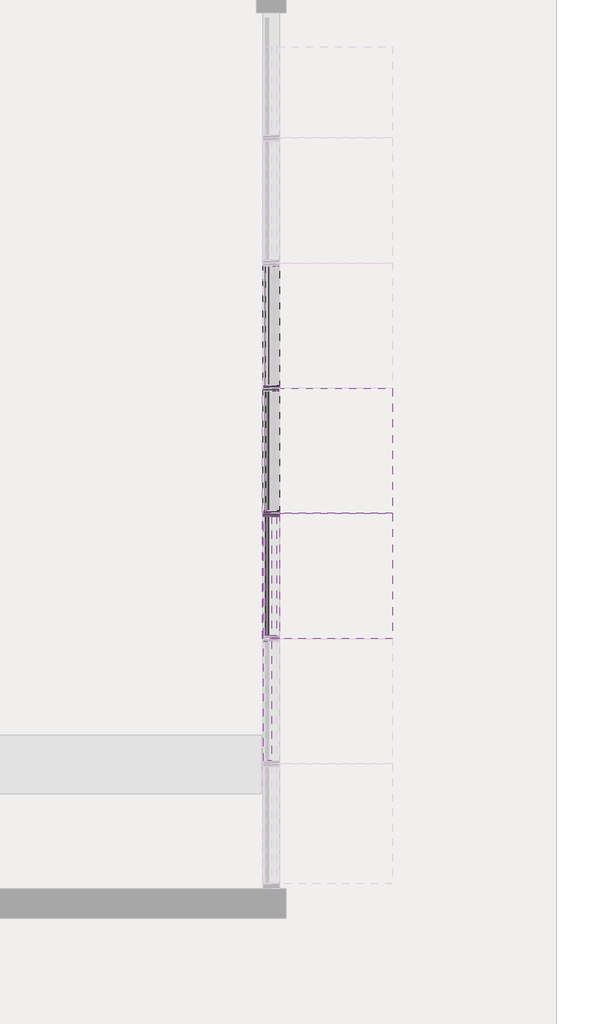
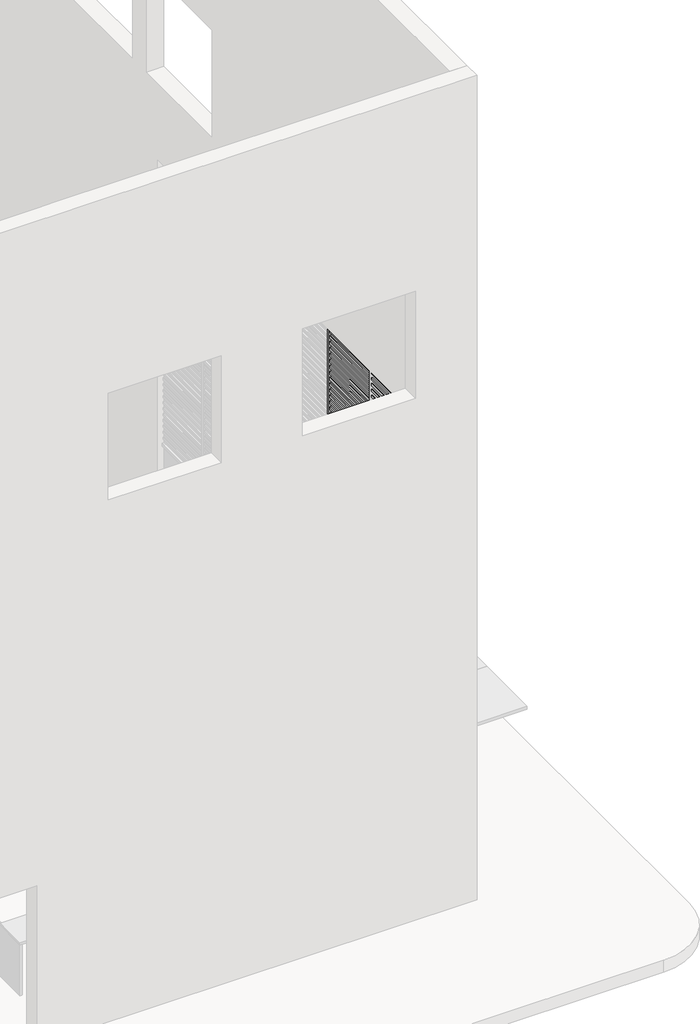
# One storey, part 4 of 8: 83 members, 50 plates.
"""IFC4 building model written with IfcOpenShell, lengths in millimetres."""

from ifc_helpers import new_model, si_unit, origin, place, context, project, spatial, transform, mapped, element, save
from components import rectangular_mullion_50_x_1200mm_b79d1996, rectangular_mullion_50_x_150mm_232fa5d8, rectangular_mullion_50_x_150mm_2c7bb3b8, rectangular_mullion_50_x_150mm_81a85930, rectangular_mullion_50_x_150mm_0b18dce2, rectangular_mullion_timber_70_x_35_2d2b050c, empty_system_panel_empty_0ae384b7, empty_system_panel_empty_f50b0574, empty_system_panel_empty_9ab0a9e8, system_panel_concept_glazed_5326a568

model = new_model("IFC4")

# Units and contexts
model_context = context("Model", 3, world=origin())
ifc_project = project(units=[si_unit("LENGTHUNIT", "METRE", prefix="MILLI")], contexts=[model_context])

# Site, building, storey
site = spatial("IfcSite", under=ifc_project)
building = spatial("IfcBuilding", under=site)
storey = spatial("IfcBuildingStorey", under=building, Name="0階", Elevation=25100.0)

# Members
placement = place(None, origin())
rectangular_mullion_50_x_1200mm_shape = rectangular_mullion_50_x_1200mm_b79d1996(model_context)
element("IfcMember", 1, ObjectType="Rectangular Mullion : 50 x 1200mm", at=placement, inside=storey, context=model_context, shape_type="MappedRepresentation", body=[
    mapped(rectangular_mullion_50_x_1200mm_shape, transform((45100.0, 3780.5183891, 27800.0), x_axis=(0.0, 0.0, 1.0), y_axis=(1.0, 0.0, 0.0), z_axis=(0.0, 1.0, 0.0))),
])
element("IfcMember", 2, ObjectType="Rectangular Mullion : 50 x 1200mm", at=placement, inside=storey, context=model_context, shape_type="MappedRepresentation", body=[
    mapped(rectangular_mullion_50_x_1200mm_shape, transform((45100.0, 4937.6612462, 27800.0), x_axis=(0.0, 0.0, 1.0), y_axis=(1.0, 0.0, 0.0), z_axis=(0.0, 1.0, 0.0))),
])
rectangular_mullion_50_x_150mm_shape = rectangular_mullion_50_x_150mm_232fa5d8(model_context)
element("IfcMember", 3, ObjectType="Rectangular Mullion : 50 x 150mm", at=placement, inside=storey, context=model_context, shape_type="MappedRepresentation", body=[
    mapped(rectangular_mullion_50_x_150mm_shape, transform((45100.0, 3780.5183891, 32600.0), x_axis=(0.0, 0.0, 1.0), y_axis=(1.0, 0.0, 0.0), z_axis=(0.0, 1.0, 0.0))),
])
element("IfcMember", 4, ObjectType="Rectangular Mullion : 50 x 150mm", at=placement, inside=storey, context=model_context, shape_type="MappedRepresentation", body=[
    mapped(rectangular_mullion_50_x_150mm_shape, transform((45100.0, 4937.6612462, 32600.0), x_axis=(0.0, 0.0, 1.0), y_axis=(1.0, 0.0, 0.0), z_axis=(0.0, 1.0, 0.0))),
])
element("IfcMember", 5, ObjectType="Rectangular Mullion : 50 x 150mm", at=placement, inside=storey, context=model_context, shape_type="MappedRepresentation", body=[
    mapped(rectangular_mullion_50_x_150mm_shape, transform((45100.0, 3780.5183891, 25100.0), x_axis=(0.0, 0.0, -1.0), y_axis=(1.0, 0.0, 0.0), z_axis=(0.0, -1.0, 0.0))),
])
element("IfcMember", 6, ObjectType="Rectangular Mullion : 50 x 150mm", at=placement, inside=storey, context=model_context, shape_type="MappedRepresentation", body=[
    mapped(rectangular_mullion_50_x_150mm_shape, transform((45100.0, 4937.6612462, 25100.0), x_axis=(0.0, 0.0, -1.0), y_axis=(1.0, 0.0, 0.0), z_axis=(0.0, -1.0, 0.0))),
])
rectangular_mullion_50_x_150mm_2_shape = rectangular_mullion_50_x_150mm_2c7bb3b8(model_context)
element("IfcMember", 7, ObjectType="Rectangular Mullion : 50 x 150mm", at=placement, inside=storey, context=model_context, shape_type="MappedRepresentation", body=[
    mapped(rectangular_mullion_50_x_150mm_2_shape, transform((45100.0, 3780.5183891, 25150.0), x_axis=(0.0, 1.0, 0.0), y_axis=(1.0, 0.0, 0.0), z_axis=(0.0, 0.0, -1.0))),
])
element("IfcMember", 8, ObjectType="Rectangular Mullion : 50 x 150mm", at=placement, inside=storey, context=model_context, shape_type="MappedRepresentation", body=[
    mapped(rectangular_mullion_50_x_150mm_2_shape, transform((45100.0, 4937.6612462, 25150.0), x_axis=(0.0, 1.0, 0.0), y_axis=(1.0, 0.0, 0.0), z_axis=(0.0, 0.0, -1.0))),
])
element("IfcMember", 9, ObjectType="Rectangular Mullion : 50 x 150mm", at=placement, inside=storey, context=model_context, shape_type="MappedRepresentation", body=[
    mapped(rectangular_mullion_50_x_150mm_2_shape, transform((45100.0, 3780.5183891, 29925.0), x_axis=(0.0, 1.0, 0.0), y_axis=(1.0, 0.0, 0.0), z_axis=(0.0, 0.0, -1.0))),
])
element("IfcMember", 10, ObjectType="Rectangular Mullion : 50 x 150mm", at=placement, inside=storey, context=model_context, shape_type="MappedRepresentation", body=[
    mapped(rectangular_mullion_50_x_150mm_2_shape, transform((45100.0, 4937.6612462, 29925.0), x_axis=(0.0, 1.0, 0.0), y_axis=(1.0, 0.0, 0.0), z_axis=(0.0, 0.0, -1.0))),
])
rectangular_mullion_50_x_150mm_3_shape = rectangular_mullion_50_x_150mm_81a85930(model_context)
element("IfcMember", 11, ObjectType="Rectangular Mullion : 50 x 150mm", at=placement, inside=storey, context=model_context, shape_type="MappedRepresentation", body=[
    mapped(rectangular_mullion_50_x_150mm_3_shape, transform((45100.0, 3780.5183891, 29900.0), x_axis=(0.0, 0.0, 1.0), y_axis=(1.0, 0.0, 0.0), z_axis=(0.0, 1.0, 0.0))),
])
rectangular_mullion_50_x_150mm_4_shape = rectangular_mullion_50_x_150mm_0b18dce2(model_context)
element("IfcMember", 12, ObjectType="Rectangular Mullion : 50 x 150mm", at=placement, inside=storey, context=model_context, shape_type="MappedRepresentation", body=[
    mapped(rectangular_mullion_50_x_150mm_4_shape, transform((45100.0, 3780.5183891, 27825.0), x_axis=(0.0, 1.0, 0.0), y_axis=(1.0, 0.0, 0.0), z_axis=(0.0, 0.0, -1.0))),
])
element("IfcMember", 13, ObjectType="Rectangular Mullion : 50 x 150mm", at=placement, inside=storey, context=model_context, shape_type="MappedRepresentation", body=[
    mapped(rectangular_mullion_50_x_150mm_4_shape, transform((45100.0, 4937.6612462, 27825.0), x_axis=(0.0, 1.0, 0.0), y_axis=(1.0, 0.0, 0.0), z_axis=(0.0, 0.0, -1.0))),
])
rectangular_mullion_timber_70_x_35_shape = rectangular_mullion_timber_70_x_35_2d2b050c(model_context)
element("IfcMember", 14, ObjectType="Rectangular Mullion : Timber - 70 x 35", at=placement, inside=storey, context=model_context, shape_type="MappedRepresentation", body=[
    mapped(rectangular_mullion_timber_70_x_35_shape, transform((45100.0, 3755.5183891, 27907.5), x_axis=(0.0, 0.0, 1.0), y_axis=(1.0, 0.0, 0.0), z_axis=(0.0, 1.0, 0.0))),
])
element("IfcMember", 15, ObjectType="Rectangular Mullion : Timber - 70 x 35", at=placement, inside=storey, context=model_context, shape_type="MappedRepresentation", body=[
    mapped(rectangular_mullion_timber_70_x_35_shape, transform((45100.0, 3755.5183891, 28007.5), x_axis=(0.0, 0.0, 1.0), y_axis=(1.0, 0.0, 0.0), z_axis=(0.0, 1.0, 0.0))),
])
element("IfcMember", 16, ObjectType="Rectangular Mullion : Timber - 70 x 35", at=placement, inside=storey, context=model_context, shape_type="MappedRepresentation", body=[
    mapped(rectangular_mullion_timber_70_x_35_shape, transform((45100.0, 3755.5183891, 28107.5), x_axis=(0.0, 0.0, 1.0), y_axis=(1.0, 0.0, 0.0), z_axis=(0.0, 1.0, 0.0))),
])
element("IfcMember", 17, ObjectType="Rectangular Mullion : Timber - 70 x 35", at=placement, inside=storey, context=model_context, shape_type="MappedRepresentation", body=[
    mapped(rectangular_mullion_timber_70_x_35_shape, transform((45100.0, 3755.5183891, 28207.5), x_axis=(0.0, 0.0, 1.0), y_axis=(1.0, 0.0, 0.0), z_axis=(0.0, 1.0, 0.0))),
])
element("IfcMember", 18, ObjectType="Rectangular Mullion : Timber - 70 x 35", at=placement, inside=storey, context=model_context, shape_type="MappedRepresentation", body=[
    mapped(rectangular_mullion_timber_70_x_35_shape, transform((45100.0, 3755.5183891, 28307.5), x_axis=(0.0, 0.0, 1.0), y_axis=(1.0, 0.0, 0.0), z_axis=(0.0, 1.0, 0.0))),
])
element("IfcMember", 19, ObjectType="Rectangular Mullion : Timber - 70 x 35", at=placement, inside=storey, context=model_context, shape_type="MappedRepresentation", body=[
    mapped(rectangular_mullion_timber_70_x_35_shape, transform((45100.0, 3755.5183891, 28407.5), x_axis=(0.0, 0.0, 1.0), y_axis=(1.0, 0.0, 0.0), z_axis=(0.0, 1.0, 0.0))),
])
element("IfcMember", 20, ObjectType="Rectangular Mullion : Timber - 70 x 35", at=placement, inside=storey, context=model_context, shape_type="MappedRepresentation", body=[
    mapped(rectangular_mullion_timber_70_x_35_shape, transform((45100.0, 3755.5183891, 28507.5), x_axis=(0.0, 0.0, 1.0), y_axis=(1.0, 0.0, 0.0), z_axis=(0.0, 1.0, 0.0))),
])
element("IfcMember", 21, ObjectType="Rectangular Mullion : Timber - 70 x 35", at=placement, inside=storey, context=model_context, shape_type="MappedRepresentation", body=[
    mapped(rectangular_mullion_timber_70_x_35_shape, transform((45100.0, 3755.5183891, 28607.5), x_axis=(0.0, 0.0, 1.0), y_axis=(1.0, 0.0, 0.0), z_axis=(0.0, 1.0, 0.0))),
])
element("IfcMember", 22, ObjectType="Rectangular Mullion : Timber - 70 x 35", at=placement, inside=storey, context=model_context, shape_type="MappedRepresentation", body=[
    mapped(rectangular_mullion_timber_70_x_35_shape, transform((45100.0, 3755.5183891, 28707.5), x_axis=(0.0, 0.0, 1.0), y_axis=(1.0, 0.0, 0.0), z_axis=(0.0, 1.0, 0.0))),
])
element("IfcMember", 23, ObjectType="Rectangular Mullion : Timber - 70 x 35", at=placement, inside=storey, context=model_context, shape_type="MappedRepresentation", body=[
    mapped(rectangular_mullion_timber_70_x_35_shape, transform((45100.0, 3755.5183891, 28807.5), x_axis=(0.0, 0.0, 1.0), y_axis=(1.0, 0.0, 0.0), z_axis=(0.0, 1.0, 0.0))),
])
element("IfcMember", 24, ObjectType="Rectangular Mullion : Timber - 70 x 35", at=placement, inside=storey, context=model_context, shape_type="MappedRepresentation", body=[
    mapped(rectangular_mullion_timber_70_x_35_shape, transform((45100.0, 3755.5183891, 28907.5), x_axis=(0.0, 0.0, 1.0), y_axis=(1.0, 0.0, 0.0), z_axis=(0.0, 1.0, 0.0))),
])
element("IfcMember", 25, ObjectType="Rectangular Mullion : Timber - 70 x 35", at=placement, inside=storey, context=model_context, shape_type="MappedRepresentation", body=[
    mapped(rectangular_mullion_timber_70_x_35_shape, transform((45100.0, 3755.5183891, 29007.5), x_axis=(0.0, 0.0, 1.0), y_axis=(1.0, 0.0, 0.0), z_axis=(0.0, 1.0, 0.0))),
])
element("IfcMember", 26, ObjectType="Rectangular Mullion : Timber - 70 x 35", at=placement, inside=storey, context=model_context, shape_type="MappedRepresentation", body=[
    mapped(rectangular_mullion_timber_70_x_35_shape, transform((45100.0, 3755.5183891, 29107.5), x_axis=(0.0, 0.0, 1.0), y_axis=(1.0, 0.0, 0.0), z_axis=(0.0, 1.0, 0.0))),
])
element("IfcMember", 27, ObjectType="Rectangular Mullion : Timber - 70 x 35", at=placement, inside=storey, context=model_context, shape_type="MappedRepresentation", body=[
    mapped(rectangular_mullion_timber_70_x_35_shape, transform((45100.0, 3755.5183891, 29207.5), x_axis=(0.0, 0.0, 1.0), y_axis=(1.0, 0.0, 0.0), z_axis=(0.0, 1.0, 0.0))),
])
element("IfcMember", 28, ObjectType="Rectangular Mullion : Timber - 70 x 35", at=placement, inside=storey, context=model_context, shape_type="MappedRepresentation", body=[
    mapped(rectangular_mullion_timber_70_x_35_shape, transform((45100.0, 3755.5183891, 29307.5), x_axis=(0.0, 0.0, 1.0), y_axis=(1.0, 0.0, 0.0), z_axis=(0.0, 1.0, 0.0))),
])
element("IfcMember", 29, ObjectType="Rectangular Mullion : Timber - 70 x 35", at=placement, inside=storey, context=model_context, shape_type="MappedRepresentation", body=[
    mapped(rectangular_mullion_timber_70_x_35_shape, transform((45100.0, 3755.5183891, 29407.5), x_axis=(0.0, 0.0, 1.0), y_axis=(1.0, 0.0, 0.0), z_axis=(0.0, 1.0, 0.0))),
])
element("IfcMember", 30, ObjectType="Rectangular Mullion : Timber - 70 x 35", at=placement, inside=storey, context=model_context, shape_type="MappedRepresentation", body=[
    mapped(rectangular_mullion_timber_70_x_35_shape, transform((45100.0, 3755.5183891, 29507.5), x_axis=(0.0, 0.0, 1.0), y_axis=(1.0, 0.0, 0.0), z_axis=(0.0, 1.0, 0.0))),
])
element("IfcMember", 31, ObjectType="Rectangular Mullion : Timber - 70 x 35", at=placement, inside=storey, context=model_context, shape_type="MappedRepresentation", body=[
    mapped(rectangular_mullion_timber_70_x_35_shape, transform((45100.0, 3755.5183891, 29607.5), x_axis=(0.0, 0.0, 1.0), y_axis=(1.0, 0.0, 0.0), z_axis=(0.0, 1.0, 0.0))),
])
element("IfcMember", 32, ObjectType="Rectangular Mullion : Timber - 70 x 35", at=placement, inside=storey, context=model_context, shape_type="MappedRepresentation", body=[
    mapped(rectangular_mullion_timber_70_x_35_shape, transform((45100.0, 3755.5183891, 29707.5), x_axis=(0.0, 0.0, 1.0), y_axis=(1.0, 0.0, 0.0), z_axis=(0.0, 1.0, 0.0))),
])
element("IfcMember", 33, ObjectType="Rectangular Mullion : Timber - 70 x 35", at=placement, inside=storey, context=model_context, shape_type="MappedRepresentation", body=[
    mapped(rectangular_mullion_timber_70_x_35_shape, transform((45100.0, 3755.5183891, 29807.5), x_axis=(0.0, 0.0, 1.0), y_axis=(1.0, 0.0, 0.0), z_axis=(0.0, 1.0, 0.0))),
])
element("IfcMember", 34, ObjectType="Rectangular Mullion : Timber - 70 x 35", at=placement, inside=storey, context=model_context, shape_type="MappedRepresentation", body=[
    mapped(rectangular_mullion_timber_70_x_35_shape, transform((45100.0, 2598.3755319, 30207.5), x_axis=(0.0, 0.0, 1.0), y_axis=(1.0, 0.0, 0.0), z_axis=(0.0, 1.0, 0.0))),
])
element("IfcMember", 35, ObjectType="Rectangular Mullion : Timber - 70 x 35", at=placement, inside=storey, context=model_context, shape_type="MappedRepresentation", body=[
    mapped(rectangular_mullion_timber_70_x_35_shape, transform((45100.0, 2598.3755319, 30307.5), x_axis=(0.0, 0.0, 1.0), y_axis=(1.0, 0.0, 0.0), z_axis=(0.0, 1.0, 0.0))),
])
element("IfcMember", 36, ObjectType="Rectangular Mullion : Timber - 70 x 35", at=placement, inside=storey, context=model_context, shape_type="MappedRepresentation", body=[
    mapped(rectangular_mullion_timber_70_x_35_shape, transform((45100.0, 2598.3755319, 30407.5), x_axis=(0.0, 0.0, 1.0), y_axis=(1.0, 0.0, 0.0), z_axis=(0.0, 1.0, 0.0))),
])
element("IfcMember", 37, ObjectType="Rectangular Mullion : Timber - 70 x 35", at=placement, inside=storey, context=model_context, shape_type="MappedRepresentation", body=[
    mapped(rectangular_mullion_timber_70_x_35_shape, transform((45100.0, 2598.3755319, 30507.5), x_axis=(0.0, 0.0, 1.0), y_axis=(1.0, 0.0, 0.0), z_axis=(0.0, 1.0, 0.0))),
])
element("IfcMember", 38, ObjectType="Rectangular Mullion : Timber - 70 x 35", at=placement, inside=storey, context=model_context, shape_type="MappedRepresentation", body=[
    mapped(rectangular_mullion_timber_70_x_35_shape, transform((45100.0, 2598.3755319, 30607.5), x_axis=(0.0, 0.0, 1.0), y_axis=(1.0, 0.0, 0.0), z_axis=(0.0, 1.0, 0.0))),
])
element("IfcMember", 39, ObjectType="Rectangular Mullion : Timber - 70 x 35", at=placement, inside=storey, context=model_context, shape_type="MappedRepresentation", body=[
    mapped(rectangular_mullion_timber_70_x_35_shape, transform((45100.0, 2598.3755319, 30707.5), x_axis=(0.0, 0.0, 1.0), y_axis=(1.0, 0.0, 0.0), z_axis=(0.0, 1.0, 0.0))),
])
element("IfcMember", 40, ObjectType="Rectangular Mullion : Timber - 70 x 35", at=placement, inside=storey, context=model_context, shape_type="MappedRepresentation", body=[
    mapped(rectangular_mullion_timber_70_x_35_shape, transform((45100.0, 2598.3755319, 30807.5), x_axis=(0.0, 0.0, 1.0), y_axis=(1.0, 0.0, 0.0), z_axis=(0.0, 1.0, 0.0))),
])
element("IfcMember", 41, ObjectType="Rectangular Mullion : Timber - 70 x 35", at=placement, inside=storey, context=model_context, shape_type="MappedRepresentation", body=[
    mapped(rectangular_mullion_timber_70_x_35_shape, transform((45100.0, 2598.3755319, 30907.5), x_axis=(0.0, 0.0, 1.0), y_axis=(1.0, 0.0, 0.0), z_axis=(0.0, 1.0, 0.0))),
])
element("IfcMember", 42, ObjectType="Rectangular Mullion : Timber - 70 x 35", at=placement, inside=storey, context=model_context, shape_type="MappedRepresentation", body=[
    mapped(rectangular_mullion_timber_70_x_35_shape, transform((45100.0, 2598.3755319, 31007.5), x_axis=(0.0, 0.0, 1.0), y_axis=(1.0, 0.0, 0.0), z_axis=(0.0, 1.0, 0.0))),
])
element("IfcMember", 43, ObjectType="Rectangular Mullion : Timber - 70 x 35", at=placement, inside=storey, context=model_context, shape_type="MappedRepresentation", body=[
    mapped(rectangular_mullion_timber_70_x_35_shape, transform((45100.0, 2598.3755319, 31107.5), x_axis=(0.0, 0.0, 1.0), y_axis=(1.0, 0.0, 0.0), z_axis=(0.0, 1.0, 0.0))),
])
element("IfcMember", 44, ObjectType="Rectangular Mullion : Timber - 70 x 35", at=placement, inside=storey, context=model_context, shape_type="MappedRepresentation", body=[
    mapped(rectangular_mullion_timber_70_x_35_shape, transform((45100.0, 2598.3755319, 31207.5), x_axis=(0.0, 0.0, 1.0), y_axis=(1.0, 0.0, 0.0), z_axis=(0.0, 1.0, 0.0))),
])
element("IfcMember", 45, ObjectType="Rectangular Mullion : Timber - 70 x 35", at=placement, inside=storey, context=model_context, shape_type="MappedRepresentation", body=[
    mapped(rectangular_mullion_timber_70_x_35_shape, transform((45100.0, 2598.3755319, 31307.5), x_axis=(0.0, 0.0, 1.0), y_axis=(1.0, 0.0, 0.0), z_axis=(0.0, 1.0, 0.0))),
])
element("IfcMember", 46, ObjectType="Rectangular Mullion : Timber - 70 x 35", at=placement, inside=storey, context=model_context, shape_type="MappedRepresentation", body=[
    mapped(rectangular_mullion_timber_70_x_35_shape, transform((45100.0, 2598.3755319, 31407.5), x_axis=(0.0, 0.0, 1.0), y_axis=(1.0, 0.0, 0.0), z_axis=(0.0, 1.0, 0.0))),
])
element("IfcMember", 47, ObjectType="Rectangular Mullion : Timber - 70 x 35", at=placement, inside=storey, context=model_context, shape_type="MappedRepresentation", body=[
    mapped(rectangular_mullion_timber_70_x_35_shape, transform((45100.0, 2598.3755319, 31507.5), x_axis=(0.0, 0.0, 1.0), y_axis=(1.0, 0.0, 0.0), z_axis=(0.0, 1.0, 0.0))),
])
element("IfcMember", 48, ObjectType="Rectangular Mullion : Timber - 70 x 35", at=placement, inside=storey, context=model_context, shape_type="MappedRepresentation", body=[
    mapped(rectangular_mullion_timber_70_x_35_shape, transform((45100.0, 2598.3755319, 31607.5), x_axis=(0.0, 0.0, 1.0), y_axis=(1.0, 0.0, 0.0), z_axis=(0.0, 1.0, 0.0))),
])
element("IfcMember", 49, ObjectType="Rectangular Mullion : Timber - 70 x 35", at=placement, inside=storey, context=model_context, shape_type="MappedRepresentation", body=[
    mapped(rectangular_mullion_timber_70_x_35_shape, transform((45100.0, 2598.3755319, 31707.5), x_axis=(0.0, 0.0, 1.0), y_axis=(1.0, 0.0, 0.0), z_axis=(0.0, 1.0, 0.0))),
])
element("IfcMember", 50, ObjectType="Rectangular Mullion : Timber - 70 x 35", at=placement, inside=storey, context=model_context, shape_type="MappedRepresentation", body=[
    mapped(rectangular_mullion_timber_70_x_35_shape, transform((45100.0, 2598.3755319, 31807.5), x_axis=(0.0, 0.0, 1.0), y_axis=(1.0, 0.0, 0.0), z_axis=(0.0, 1.0, 0.0))),
])
element("IfcMember", 51, ObjectType="Rectangular Mullion : Timber - 70 x 35", at=placement, inside=storey, context=model_context, shape_type="MappedRepresentation", body=[
    mapped(rectangular_mullion_timber_70_x_35_shape, transform((45100.0, 2598.3755319, 31907.5), x_axis=(0.0, 0.0, 1.0), y_axis=(1.0, 0.0, 0.0), z_axis=(0.0, 1.0, 0.0))),
])
element("IfcMember", 52, ObjectType="Rectangular Mullion : Timber - 70 x 35", at=placement, inside=storey, context=model_context, shape_type="MappedRepresentation", body=[
    mapped(rectangular_mullion_timber_70_x_35_shape, transform((45100.0, 2598.3755319, 32007.5), x_axis=(0.0, 0.0, 1.0), y_axis=(1.0, 0.0, 0.0), z_axis=(0.0, 1.0, 0.0))),
])
element("IfcMember", 53, ObjectType="Rectangular Mullion : Timber - 70 x 35", at=placement, inside=storey, context=model_context, shape_type="MappedRepresentation", body=[
    mapped(rectangular_mullion_timber_70_x_35_shape, transform((45100.0, 2598.3755319, 32107.5), x_axis=(0.0, 0.0, 1.0), y_axis=(1.0, 0.0, 0.0), z_axis=(0.0, 1.0, 0.0))),
])
element("IfcMember", 54, ObjectType="Rectangular Mullion : Timber - 70 x 35", at=placement, inside=storey, context=model_context, shape_type="MappedRepresentation", body=[
    mapped(rectangular_mullion_timber_70_x_35_shape, transform((45100.0, 2598.3755319, 32207.5), x_axis=(0.0, 0.0, 1.0), y_axis=(1.0, 0.0, 0.0), z_axis=(0.0, 1.0, 0.0))),
])
element("IfcMember", 55, ObjectType="Rectangular Mullion : Timber - 70 x 35", at=placement, inside=storey, context=model_context, shape_type="MappedRepresentation", body=[
    mapped(rectangular_mullion_timber_70_x_35_shape, transform((45100.0, 2598.3755319, 32307.5), x_axis=(0.0, 0.0, 1.0), y_axis=(1.0, 0.0, 0.0), z_axis=(0.0, 1.0, 0.0))),
])
element("IfcMember", 56, ObjectType="Rectangular Mullion : Timber - 70 x 35", at=placement, inside=storey, context=model_context, shape_type="MappedRepresentation", body=[
    mapped(rectangular_mullion_timber_70_x_35_shape, transform((45100.0, 2598.3755319, 32407.5), x_axis=(0.0, 0.0, 1.0), y_axis=(1.0, 0.0, 0.0), z_axis=(0.0, 1.0, 0.0))),
])
element("IfcMember", 57, ObjectType="Rectangular Mullion : Timber - 70 x 35", at=placement, inside=storey, context=model_context, shape_type="MappedRepresentation", body=[
    mapped(rectangular_mullion_timber_70_x_35_shape, transform((45100.0, 2598.3755319, 32507.5), x_axis=(0.0, 0.0, 1.0), y_axis=(1.0, 0.0, 0.0), z_axis=(0.0, 1.0, 0.0))),
])
element("IfcMember", 58, ObjectType="Rectangular Mullion : Timber - 70 x 35", at=placement, inside=storey, context=model_context, shape_type="MappedRepresentation", body=[
    mapped(rectangular_mullion_timber_70_x_35_shape, transform((45100.0, 3755.5183891, 30007.5), x_axis=(0.0, 0.0, 1.0), y_axis=(1.0, 0.0, 0.0), z_axis=(0.0, 1.0, 0.0))),
])
element("IfcMember", 59, ObjectType="Rectangular Mullion : Timber - 70 x 35", at=placement, inside=storey, context=model_context, shape_type="MappedRepresentation", body=[
    mapped(rectangular_mullion_timber_70_x_35_shape, transform((45100.0, 3755.5183891, 30107.5), x_axis=(0.0, 0.0, 1.0), y_axis=(1.0, 0.0, 0.0), z_axis=(0.0, 1.0, 0.0))),
])
element("IfcMember", 60, ObjectType="Rectangular Mullion : Timber - 70 x 35", at=placement, inside=storey, context=model_context, shape_type="MappedRepresentation", body=[
    mapped(rectangular_mullion_timber_70_x_35_shape, transform((45100.0, 3755.5183891, 30207.5), x_axis=(0.0, 0.0, 1.0), y_axis=(1.0, 0.0, 0.0), z_axis=(0.0, 1.0, 0.0))),
])
element("IfcMember", 61, ObjectType="Rectangular Mullion : Timber - 70 x 35", at=placement, inside=storey, context=model_context, shape_type="MappedRepresentation", body=[
    mapped(rectangular_mullion_timber_70_x_35_shape, transform((45100.0, 3755.5183891, 30307.5), x_axis=(0.0, 0.0, 1.0), y_axis=(1.0, 0.0, 0.0), z_axis=(0.0, 1.0, 0.0))),
])
element("IfcMember", 62, ObjectType="Rectangular Mullion : Timber - 70 x 35", at=placement, inside=storey, context=model_context, shape_type="MappedRepresentation", body=[
    mapped(rectangular_mullion_timber_70_x_35_shape, transform((45100.0, 3755.5183891, 30407.5), x_axis=(0.0, 0.0, 1.0), y_axis=(1.0, 0.0, 0.0), z_axis=(0.0, 1.0, 0.0))),
])
element("IfcMember", 63, ObjectType="Rectangular Mullion : Timber - 70 x 35", at=placement, inside=storey, context=model_context, shape_type="MappedRepresentation", body=[
    mapped(rectangular_mullion_timber_70_x_35_shape, transform((45100.0, 3755.5183891, 30507.5), x_axis=(0.0, 0.0, 1.0), y_axis=(1.0, 0.0, 0.0), z_axis=(0.0, 1.0, 0.0))),
])
element("IfcMember", 64, ObjectType="Rectangular Mullion : Timber - 70 x 35", at=placement, inside=storey, context=model_context, shape_type="MappedRepresentation", body=[
    mapped(rectangular_mullion_timber_70_x_35_shape, transform((45100.0, 3755.5183891, 30607.5), x_axis=(0.0, 0.0, 1.0), y_axis=(1.0, 0.0, 0.0), z_axis=(0.0, 1.0, 0.0))),
])
element("IfcMember", 65, ObjectType="Rectangular Mullion : Timber - 70 x 35", at=placement, inside=storey, context=model_context, shape_type="MappedRepresentation", body=[
    mapped(rectangular_mullion_timber_70_x_35_shape, transform((45100.0, 3755.5183891, 30707.5), x_axis=(0.0, 0.0, 1.0), y_axis=(1.0, 0.0, 0.0), z_axis=(0.0, 1.0, 0.0))),
])
element("IfcMember", 66, ObjectType="Rectangular Mullion : Timber - 70 x 35", at=placement, inside=storey, context=model_context, shape_type="MappedRepresentation", body=[
    mapped(rectangular_mullion_timber_70_x_35_shape, transform((45100.0, 3755.5183891, 30807.5), x_axis=(0.0, 0.0, 1.0), y_axis=(1.0, 0.0, 0.0), z_axis=(0.0, 1.0, 0.0))),
])
element("IfcMember", 67, ObjectType="Rectangular Mullion : Timber - 70 x 35", at=placement, inside=storey, context=model_context, shape_type="MappedRepresentation", body=[
    mapped(rectangular_mullion_timber_70_x_35_shape, transform((45100.0, 3755.5183891, 30907.5), x_axis=(0.0, 0.0, 1.0), y_axis=(1.0, 0.0, 0.0), z_axis=(0.0, 1.0, 0.0))),
])
element("IfcMember", 68, ObjectType="Rectangular Mullion : Timber - 70 x 35", at=placement, inside=storey, context=model_context, shape_type="MappedRepresentation", body=[
    mapped(rectangular_mullion_timber_70_x_35_shape, transform((45100.0, 3755.5183891, 31007.5), x_axis=(0.0, 0.0, 1.0), y_axis=(1.0, 0.0, 0.0), z_axis=(0.0, 1.0, 0.0))),
])
element("IfcMember", 69, ObjectType="Rectangular Mullion : Timber - 70 x 35", at=placement, inside=storey, context=model_context, shape_type="MappedRepresentation", body=[
    mapped(rectangular_mullion_timber_70_x_35_shape, transform((45100.0, 3755.5183891, 31107.5), x_axis=(0.0, 0.0, 1.0), y_axis=(1.0, 0.0, 0.0), z_axis=(0.0, 1.0, 0.0))),
])
element("IfcMember", 70, ObjectType="Rectangular Mullion : Timber - 70 x 35", at=placement, inside=storey, context=model_context, shape_type="MappedRepresentation", body=[
    mapped(rectangular_mullion_timber_70_x_35_shape, transform((45100.0, 3755.5183891, 31207.5), x_axis=(0.0, 0.0, 1.0), y_axis=(1.0, 0.0, 0.0), z_axis=(0.0, 1.0, 0.0))),
])
element("IfcMember", 71, ObjectType="Rectangular Mullion : Timber - 70 x 35", at=placement, inside=storey, context=model_context, shape_type="MappedRepresentation", body=[
    mapped(rectangular_mullion_timber_70_x_35_shape, transform((45100.0, 3755.5183891, 31307.5), x_axis=(0.0, 0.0, 1.0), y_axis=(1.0, 0.0, 0.0), z_axis=(0.0, 1.0, 0.0))),
])
element("IfcMember", 72, ObjectType="Rectangular Mullion : Timber - 70 x 35", at=placement, inside=storey, context=model_context, shape_type="MappedRepresentation", body=[
    mapped(rectangular_mullion_timber_70_x_35_shape, transform((45100.0, 3755.5183891, 31407.5), x_axis=(0.0, 0.0, 1.0), y_axis=(1.0, 0.0, 0.0), z_axis=(0.0, 1.0, 0.0))),
])
element("IfcMember", 73, ObjectType="Rectangular Mullion : Timber - 70 x 35", at=placement, inside=storey, context=model_context, shape_type="MappedRepresentation", body=[
    mapped(rectangular_mullion_timber_70_x_35_shape, transform((45100.0, 3755.5183891, 31507.5), x_axis=(0.0, 0.0, 1.0), y_axis=(1.0, 0.0, 0.0), z_axis=(0.0, 1.0, 0.0))),
])
element("IfcMember", 74, ObjectType="Rectangular Mullion : Timber - 70 x 35", at=placement, inside=storey, context=model_context, shape_type="MappedRepresentation", body=[
    mapped(rectangular_mullion_timber_70_x_35_shape, transform((45100.0, 3755.5183891, 31607.5), x_axis=(0.0, 0.0, 1.0), y_axis=(1.0, 0.0, 0.0), z_axis=(0.0, 1.0, 0.0))),
])
element("IfcMember", 75, ObjectType="Rectangular Mullion : Timber - 70 x 35", at=placement, inside=storey, context=model_context, shape_type="MappedRepresentation", body=[
    mapped(rectangular_mullion_timber_70_x_35_shape, transform((45100.0, 3755.5183891, 31707.5), x_axis=(0.0, 0.0, 1.0), y_axis=(1.0, 0.0, 0.0), z_axis=(0.0, 1.0, 0.0))),
])
element("IfcMember", 76, ObjectType="Rectangular Mullion : Timber - 70 x 35", at=placement, inside=storey, context=model_context, shape_type="MappedRepresentation", body=[
    mapped(rectangular_mullion_timber_70_x_35_shape, transform((45100.0, 3755.5183891, 31807.5), x_axis=(0.0, 0.0, 1.0), y_axis=(1.0, 0.0, 0.0), z_axis=(0.0, 1.0, 0.0))),
])
element("IfcMember", 77, ObjectType="Rectangular Mullion : Timber - 70 x 35", at=placement, inside=storey, context=model_context, shape_type="MappedRepresentation", body=[
    mapped(rectangular_mullion_timber_70_x_35_shape, transform((45100.0, 3755.5183891, 31907.5), x_axis=(0.0, 0.0, 1.0), y_axis=(1.0, 0.0, 0.0), z_axis=(0.0, 1.0, 0.0))),
])
element("IfcMember", 78, ObjectType="Rectangular Mullion : Timber - 70 x 35", at=placement, inside=storey, context=model_context, shape_type="MappedRepresentation", body=[
    mapped(rectangular_mullion_timber_70_x_35_shape, transform((45100.0, 3755.5183891, 32007.5), x_axis=(0.0, 0.0, 1.0), y_axis=(1.0, 0.0, 0.0), z_axis=(0.0, 1.0, 0.0))),
])
element("IfcMember", 79, ObjectType="Rectangular Mullion : Timber - 70 x 35", at=placement, inside=storey, context=model_context, shape_type="MappedRepresentation", body=[
    mapped(rectangular_mullion_timber_70_x_35_shape, transform((45100.0, 3755.5183891, 32107.5), x_axis=(0.0, 0.0, 1.0), y_axis=(1.0, 0.0, 0.0), z_axis=(0.0, 1.0, 0.0))),
])
element("IfcMember", 80, ObjectType="Rectangular Mullion : Timber - 70 x 35", at=placement, inside=storey, context=model_context, shape_type="MappedRepresentation", body=[
    mapped(rectangular_mullion_timber_70_x_35_shape, transform((45100.0, 3755.5183891, 32207.5), x_axis=(0.0, 0.0, 1.0), y_axis=(1.0, 0.0, 0.0), z_axis=(0.0, 1.0, 0.0))),
])
element("IfcMember", 81, ObjectType="Rectangular Mullion : Timber - 70 x 35", at=placement, inside=storey, context=model_context, shape_type="MappedRepresentation", body=[
    mapped(rectangular_mullion_timber_70_x_35_shape, transform((45100.0, 3755.5183891, 32307.5), x_axis=(0.0, 0.0, 1.0), y_axis=(1.0, 0.0, 0.0), z_axis=(0.0, 1.0, 0.0))),
])
element("IfcMember", 82, ObjectType="Rectangular Mullion : Timber - 70 x 35", at=placement, inside=storey, context=model_context, shape_type="MappedRepresentation", body=[
    mapped(rectangular_mullion_timber_70_x_35_shape, transform((45100.0, 3755.5183891, 32407.5), x_axis=(0.0, 0.0, 1.0), y_axis=(1.0, 0.0, 0.0), z_axis=(0.0, 1.0, 0.0))),
])
element("IfcMember", 83, ObjectType="Rectangular Mullion : Timber - 70 x 35", at=placement, inside=storey, context=model_context, shape_type="MappedRepresentation", body=[
    mapped(rectangular_mullion_timber_70_x_35_shape, transform((45100.0, 3755.5183891, 32507.5), x_axis=(0.0, 0.0, 1.0), y_axis=(1.0, 0.0, 0.0), z_axis=(0.0, 1.0, 0.0))),
])

# Plates
empty_system_panel_empty_shape = empty_system_panel_empty_0ae384b7(model_context)
element("IfcPlate", 84, ObjectType="Empty System Panel : Empty", at=placement, inside=storey, context=model_context, shape_type="MappedRepresentation", body=[
    mapped(empty_system_panel_empty_shape, transform((45100.0, 3201.9469605, 29825.0), x_axis=(0.0, 1.0, 0.0), y_axis=(-1.0, 0.0, 0.0), z_axis=(0.0, 0.0, 1.0))),
])
empty_system_panel_empty_2_shape = empty_system_panel_empty_f50b0574(model_context)
element("IfcPlate", 85, ObjectType="Empty System Panel : Empty", at=placement, inside=storey, context=model_context, shape_type="MappedRepresentation", body=[
    mapped(empty_system_panel_empty_2_shape, transform((45100.0, 3201.9469605, 32525.0), x_axis=(0.0, 1.0, 0.0), y_axis=(-1.0, 0.0, 0.0), z_axis=(0.0, 0.0, 1.0))),
])
empty_system_panel_empty_3_shape = empty_system_panel_empty_9ab0a9e8(model_context)
element("IfcPlate", 86, ObjectType="Empty System Panel : Empty", at=placement, inside=storey, context=model_context, shape_type="MappedRepresentation", body=[
    mapped(empty_system_panel_empty_3_shape, transform((45100.0, 3201.9469605, 27825.0), x_axis=(0.0, 1.0, 0.0), y_axis=(-1.0, 0.0, 0.0), z_axis=(0.0, 0.0, 1.0))),
])
element("IfcPlate", 87, ObjectType="Empty System Panel : Empty", at=placement, inside=storey, context=model_context, shape_type="MappedRepresentation", body=[
    mapped(empty_system_panel_empty_3_shape, transform((45100.0, 3201.9469605, 29925.0), x_axis=(0.0, 1.0, 0.0), y_axis=(-1.0, 0.0, 0.0), z_axis=(0.0, 0.0, 1.0))),
])
element("IfcPlate", 88, ObjectType="Empty System Panel : Empty", at=placement, inside=storey, context=model_context, shape_type="MappedRepresentation", body=[
    mapped(empty_system_panel_empty_3_shape, transform((45100.0, 3201.9469605, 27925.0), x_axis=(0.0, 1.0, 0.0), y_axis=(-1.0, 0.0, 0.0), z_axis=(0.0, 0.0, 1.0))),
])
element("IfcPlate", 89, ObjectType="Empty System Panel : Empty", at=placement, inside=storey, context=model_context, shape_type="MappedRepresentation", body=[
    mapped(empty_system_panel_empty_3_shape, transform((45100.0, 3201.9469605, 28025.0), x_axis=(0.0, 1.0, 0.0), y_axis=(-1.0, 0.0, 0.0), z_axis=(0.0, 0.0, 1.0))),
])
element("IfcPlate", 90, ObjectType="Empty System Panel : Empty", at=placement, inside=storey, context=model_context, shape_type="MappedRepresentation", body=[
    mapped(empty_system_panel_empty_3_shape, transform((45100.0, 3201.9469605, 28125.0), x_axis=(0.0, 1.0, 0.0), y_axis=(-1.0, 0.0, 0.0), z_axis=(0.0, 0.0, 1.0))),
])
element("IfcPlate", 91, ObjectType="Empty System Panel : Empty", at=placement, inside=storey, context=model_context, shape_type="MappedRepresentation", body=[
    mapped(empty_system_panel_empty_3_shape, transform((45100.0, 3201.9469605, 28225.0), x_axis=(0.0, 1.0, 0.0), y_axis=(-1.0, 0.0, 0.0), z_axis=(0.0, 0.0, 1.0))),
])
element("IfcPlate", 92, ObjectType="Empty System Panel : Empty", at=placement, inside=storey, context=model_context, shape_type="MappedRepresentation", body=[
    mapped(empty_system_panel_empty_3_shape, transform((45100.0, 3201.9469605, 28325.0), x_axis=(0.0, 1.0, 0.0), y_axis=(-1.0, 0.0, 0.0), z_axis=(0.0, 0.0, 1.0))),
])
element("IfcPlate", 93, ObjectType="Empty System Panel : Empty", at=placement, inside=storey, context=model_context, shape_type="MappedRepresentation", body=[
    mapped(empty_system_panel_empty_3_shape, transform((45100.0, 3201.9469605, 28425.0), x_axis=(0.0, 1.0, 0.0), y_axis=(-1.0, 0.0, 0.0), z_axis=(0.0, 0.0, 1.0))),
])
element("IfcPlate", 94, ObjectType="Empty System Panel : Empty", at=placement, inside=storey, context=model_context, shape_type="MappedRepresentation", body=[
    mapped(empty_system_panel_empty_3_shape, transform((45100.0, 3201.9469605, 28525.0), x_axis=(0.0, 1.0, 0.0), y_axis=(-1.0, 0.0, 0.0), z_axis=(0.0, 0.0, 1.0))),
])
element("IfcPlate", 95, ObjectType="Empty System Panel : Empty", at=placement, inside=storey, context=model_context, shape_type="MappedRepresentation", body=[
    mapped(empty_system_panel_empty_3_shape, transform((45100.0, 3201.9469605, 28625.0), x_axis=(0.0, 1.0, 0.0), y_axis=(-1.0, 0.0, 0.0), z_axis=(0.0, 0.0, 1.0))),
])
element("IfcPlate", 96, ObjectType="Empty System Panel : Empty", at=placement, inside=storey, context=model_context, shape_type="MappedRepresentation", body=[
    mapped(empty_system_panel_empty_3_shape, transform((45100.0, 3201.9469605, 28725.0), x_axis=(0.0, 1.0, 0.0), y_axis=(-1.0, 0.0, 0.0), z_axis=(0.0, 0.0, 1.0))),
])
element("IfcPlate", 97, ObjectType="Empty System Panel : Empty", at=placement, inside=storey, context=model_context, shape_type="MappedRepresentation", body=[
    mapped(empty_system_panel_empty_3_shape, transform((45100.0, 3201.9469605, 28825.0), x_axis=(0.0, 1.0, 0.0), y_axis=(-1.0, 0.0, 0.0), z_axis=(0.0, 0.0, 1.0))),
])
element("IfcPlate", 98, ObjectType="Empty System Panel : Empty", at=placement, inside=storey, context=model_context, shape_type="MappedRepresentation", body=[
    mapped(empty_system_panel_empty_3_shape, transform((45100.0, 3201.9469605, 28925.0), x_axis=(0.0, 1.0, 0.0), y_axis=(-1.0, 0.0, 0.0), z_axis=(0.0, 0.0, 1.0))),
])
element("IfcPlate", 99, ObjectType="Empty System Panel : Empty", at=placement, inside=storey, context=model_context, shape_type="MappedRepresentation", body=[
    mapped(empty_system_panel_empty_3_shape, transform((45100.0, 3201.9469605, 29025.0), x_axis=(0.0, 1.0, 0.0), y_axis=(-1.0, 0.0, 0.0), z_axis=(0.0, 0.0, 1.0))),
])
element("IfcPlate", 100, ObjectType="Empty System Panel : Empty", at=placement, inside=storey, context=model_context, shape_type="MappedRepresentation", body=[
    mapped(empty_system_panel_empty_3_shape, transform((45100.0, 3201.9469605, 29125.0), x_axis=(0.0, 1.0, 0.0), y_axis=(-1.0, 0.0, 0.0), z_axis=(0.0, 0.0, 1.0))),
])
element("IfcPlate", 101, ObjectType="Empty System Panel : Empty", at=placement, inside=storey, context=model_context, shape_type="MappedRepresentation", body=[
    mapped(empty_system_panel_empty_3_shape, transform((45100.0, 3201.9469605, 29225.0), x_axis=(0.0, 1.0, 0.0), y_axis=(-1.0, 0.0, 0.0), z_axis=(0.0, 0.0, 1.0))),
])
element("IfcPlate", 102, ObjectType="Empty System Panel : Empty", at=placement, inside=storey, context=model_context, shape_type="MappedRepresentation", body=[
    mapped(empty_system_panel_empty_3_shape, transform((45100.0, 3201.9469605, 29325.0), x_axis=(0.0, 1.0, 0.0), y_axis=(-1.0, 0.0, 0.0), z_axis=(0.0, 0.0, 1.0))),
])
element("IfcPlate", 103, ObjectType="Empty System Panel : Empty", at=placement, inside=storey, context=model_context, shape_type="MappedRepresentation", body=[
    mapped(empty_system_panel_empty_3_shape, transform((45100.0, 3201.9469605, 29425.0), x_axis=(0.0, 1.0, 0.0), y_axis=(-1.0, 0.0, 0.0), z_axis=(0.0, 0.0, 1.0))),
])
element("IfcPlate", 104, ObjectType="Empty System Panel : Empty", at=placement, inside=storey, context=model_context, shape_type="MappedRepresentation", body=[
    mapped(empty_system_panel_empty_3_shape, transform((45100.0, 3201.9469605, 29525.0), x_axis=(0.0, 1.0, 0.0), y_axis=(-1.0, 0.0, 0.0), z_axis=(0.0, 0.0, 1.0))),
])
element("IfcPlate", 105, ObjectType="Empty System Panel : Empty", at=placement, inside=storey, context=model_context, shape_type="MappedRepresentation", body=[
    mapped(empty_system_panel_empty_3_shape, transform((45100.0, 3201.9469605, 29625.0), x_axis=(0.0, 1.0, 0.0), y_axis=(-1.0, 0.0, 0.0), z_axis=(0.0, 0.0, 1.0))),
])
element("IfcPlate", 106, ObjectType="Empty System Panel : Empty", at=placement, inside=storey, context=model_context, shape_type="MappedRepresentation", body=[
    mapped(empty_system_panel_empty_3_shape, transform((45100.0, 3201.9469605, 29725.0), x_axis=(0.0, 1.0, 0.0), y_axis=(-1.0, 0.0, 0.0), z_axis=(0.0, 0.0, 1.0))),
])
element("IfcPlate", 107, ObjectType="Empty System Panel : Empty", at=placement, inside=storey, context=model_context, shape_type="MappedRepresentation", body=[
    mapped(empty_system_panel_empty_3_shape, transform((45100.0, 3201.9469605, 30025.0), x_axis=(0.0, 1.0, 0.0), y_axis=(-1.0, 0.0, 0.0), z_axis=(0.0, 0.0, 1.0))),
])
element("IfcPlate", 108, ObjectType="Empty System Panel : Empty", at=placement, inside=storey, context=model_context, shape_type="MappedRepresentation", body=[
    mapped(empty_system_panel_empty_3_shape, transform((45100.0, 3201.9469605, 30125.0), x_axis=(0.0, 1.0, 0.0), y_axis=(-1.0, 0.0, 0.0), z_axis=(0.0, 0.0, 1.0))),
])
element("IfcPlate", 109, ObjectType="Empty System Panel : Empty", at=placement, inside=storey, context=model_context, shape_type="MappedRepresentation", body=[
    mapped(empty_system_panel_empty_3_shape, transform((45100.0, 3201.9469605, 30225.0), x_axis=(0.0, 1.0, 0.0), y_axis=(-1.0, 0.0, 0.0), z_axis=(0.0, 0.0, 1.0))),
])
element("IfcPlate", 110, ObjectType="Empty System Panel : Empty", at=placement, inside=storey, context=model_context, shape_type="MappedRepresentation", body=[
    mapped(empty_system_panel_empty_3_shape, transform((45100.0, 3201.9469605, 30325.0), x_axis=(0.0, 1.0, 0.0), y_axis=(-1.0, 0.0, 0.0), z_axis=(0.0, 0.0, 1.0))),
])
element("IfcPlate", 111, ObjectType="Empty System Panel : Empty", at=placement, inside=storey, context=model_context, shape_type="MappedRepresentation", body=[
    mapped(empty_system_panel_empty_3_shape, transform((45100.0, 3201.9469605, 30425.0), x_axis=(0.0, 1.0, 0.0), y_axis=(-1.0, 0.0, 0.0), z_axis=(0.0, 0.0, 1.0))),
])
element("IfcPlate", 112, ObjectType="Empty System Panel : Empty", at=placement, inside=storey, context=model_context, shape_type="MappedRepresentation", body=[
    mapped(empty_system_panel_empty_3_shape, transform((45100.0, 3201.9469605, 30525.0), x_axis=(0.0, 1.0, 0.0), y_axis=(-1.0, 0.0, 0.0), z_axis=(0.0, 0.0, 1.0))),
])
element("IfcPlate", 113, ObjectType="Empty System Panel : Empty", at=placement, inside=storey, context=model_context, shape_type="MappedRepresentation", body=[
    mapped(empty_system_panel_empty_3_shape, transform((45100.0, 3201.9469605, 30625.0), x_axis=(0.0, 1.0, 0.0), y_axis=(-1.0, 0.0, 0.0), z_axis=(0.0, 0.0, 1.0))),
])
element("IfcPlate", 114, ObjectType="Empty System Panel : Empty", at=placement, inside=storey, context=model_context, shape_type="MappedRepresentation", body=[
    mapped(empty_system_panel_empty_3_shape, transform((45100.0, 3201.9469605, 30725.0), x_axis=(0.0, 1.0, 0.0), y_axis=(-1.0, 0.0, 0.0), z_axis=(0.0, 0.0, 1.0))),
])
element("IfcPlate", 115, ObjectType="Empty System Panel : Empty", at=placement, inside=storey, context=model_context, shape_type="MappedRepresentation", body=[
    mapped(empty_system_panel_empty_3_shape, transform((45100.0, 3201.9469605, 30825.0), x_axis=(0.0, 1.0, 0.0), y_axis=(-1.0, 0.0, 0.0), z_axis=(0.0, 0.0, 1.0))),
])
element("IfcPlate", 116, ObjectType="Empty System Panel : Empty", at=placement, inside=storey, context=model_context, shape_type="MappedRepresentation", body=[
    mapped(empty_system_panel_empty_3_shape, transform((45100.0, 3201.9469605, 30925.0), x_axis=(0.0, 1.0, 0.0), y_axis=(-1.0, 0.0, 0.0), z_axis=(0.0, 0.0, 1.0))),
])
element("IfcPlate", 117, ObjectType="Empty System Panel : Empty", at=placement, inside=storey, context=model_context, shape_type="MappedRepresentation", body=[
    mapped(empty_system_panel_empty_3_shape, transform((45100.0, 3201.9469605, 31025.0), x_axis=(0.0, 1.0, 0.0), y_axis=(-1.0, 0.0, 0.0), z_axis=(0.0, 0.0, 1.0))),
])
element("IfcPlate", 118, ObjectType="Empty System Panel : Empty", at=placement, inside=storey, context=model_context, shape_type="MappedRepresentation", body=[
    mapped(empty_system_panel_empty_3_shape, transform((45100.0, 3201.9469605, 31125.0), x_axis=(0.0, 1.0, 0.0), y_axis=(-1.0, 0.0, 0.0), z_axis=(0.0, 0.0, 1.0))),
])
element("IfcPlate", 119, ObjectType="Empty System Panel : Empty", at=placement, inside=storey, context=model_context, shape_type="MappedRepresentation", body=[
    mapped(empty_system_panel_empty_3_shape, transform((45100.0, 3201.9469605, 31225.0), x_axis=(0.0, 1.0, 0.0), y_axis=(-1.0, 0.0, 0.0), z_axis=(0.0, 0.0, 1.0))),
])
element("IfcPlate", 120, ObjectType="Empty System Panel : Empty", at=placement, inside=storey, context=model_context, shape_type="MappedRepresentation", body=[
    mapped(empty_system_panel_empty_3_shape, transform((45100.0, 3201.9469605, 31325.0), x_axis=(0.0, 1.0, 0.0), y_axis=(-1.0, 0.0, 0.0), z_axis=(0.0, 0.0, 1.0))),
])
element("IfcPlate", 121, ObjectType="Empty System Panel : Empty", at=placement, inside=storey, context=model_context, shape_type="MappedRepresentation", body=[
    mapped(empty_system_panel_empty_3_shape, transform((45100.0, 3201.9469605, 31425.0), x_axis=(0.0, 1.0, 0.0), y_axis=(-1.0, 0.0, 0.0), z_axis=(0.0, 0.0, 1.0))),
])
element("IfcPlate", 122, ObjectType="Empty System Panel : Empty", at=placement, inside=storey, context=model_context, shape_type="MappedRepresentation", body=[
    mapped(empty_system_panel_empty_3_shape, transform((45100.0, 3201.9469605, 31525.0), x_axis=(0.0, 1.0, 0.0), y_axis=(-1.0, 0.0, 0.0), z_axis=(0.0, 0.0, 1.0))),
])
element("IfcPlate", 123, ObjectType="Empty System Panel : Empty", at=placement, inside=storey, context=model_context, shape_type="MappedRepresentation", body=[
    mapped(empty_system_panel_empty_3_shape, transform((45100.0, 3201.9469605, 31625.0), x_axis=(0.0, 1.0, 0.0), y_axis=(-1.0, 0.0, 0.0), z_axis=(0.0, 0.0, 1.0))),
])
element("IfcPlate", 124, ObjectType="Empty System Panel : Empty", at=placement, inside=storey, context=model_context, shape_type="MappedRepresentation", body=[
    mapped(empty_system_panel_empty_3_shape, transform((45100.0, 3201.9469605, 31725.0), x_axis=(0.0, 1.0, 0.0), y_axis=(-1.0, 0.0, 0.0), z_axis=(0.0, 0.0, 1.0))),
])
element("IfcPlate", 125, ObjectType="Empty System Panel : Empty", at=placement, inside=storey, context=model_context, shape_type="MappedRepresentation", body=[
    mapped(empty_system_panel_empty_3_shape, transform((45100.0, 3201.9469605, 31825.0), x_axis=(0.0, 1.0, 0.0), y_axis=(-1.0, 0.0, 0.0), z_axis=(0.0, 0.0, 1.0))),
])
element("IfcPlate", 126, ObjectType="Empty System Panel : Empty", at=placement, inside=storey, context=model_context, shape_type="MappedRepresentation", body=[
    mapped(empty_system_panel_empty_3_shape, transform((45100.0, 3201.9469605, 31925.0), x_axis=(0.0, 1.0, 0.0), y_axis=(-1.0, 0.0, 0.0), z_axis=(0.0, 0.0, 1.0))),
])
element("IfcPlate", 127, ObjectType="Empty System Panel : Empty", at=placement, inside=storey, context=model_context, shape_type="MappedRepresentation", body=[
    mapped(empty_system_panel_empty_3_shape, transform((45100.0, 3201.9469605, 32025.0), x_axis=(0.0, 1.0, 0.0), y_axis=(-1.0, 0.0, 0.0), z_axis=(0.0, 0.0, 1.0))),
])
element("IfcPlate", 128, ObjectType="Empty System Panel : Empty", at=placement, inside=storey, context=model_context, shape_type="MappedRepresentation", body=[
    mapped(empty_system_panel_empty_3_shape, transform((45100.0, 3201.9469605, 32125.0), x_axis=(0.0, 1.0, 0.0), y_axis=(-1.0, 0.0, 0.0), z_axis=(0.0, 0.0, 1.0))),
])
element("IfcPlate", 129, ObjectType="Empty System Panel : Empty", at=placement, inside=storey, context=model_context, shape_type="MappedRepresentation", body=[
    mapped(empty_system_panel_empty_3_shape, transform((45100.0, 3201.9469605, 32225.0), x_axis=(0.0, 1.0, 0.0), y_axis=(-1.0, 0.0, 0.0), z_axis=(0.0, 0.0, 1.0))),
])
element("IfcPlate", 130, ObjectType="Empty System Panel : Empty", at=placement, inside=storey, context=model_context, shape_type="MappedRepresentation", body=[
    mapped(empty_system_panel_empty_3_shape, transform((45100.0, 3201.9469605, 32325.0), x_axis=(0.0, 1.0, 0.0), y_axis=(-1.0, 0.0, 0.0), z_axis=(0.0, 0.0, 1.0))),
])
element("IfcPlate", 131, ObjectType="Empty System Panel : Empty", at=placement, inside=storey, context=model_context, shape_type="MappedRepresentation", body=[
    mapped(empty_system_panel_empty_3_shape, transform((45100.0, 3201.9469605, 32425.0), x_axis=(0.0, 1.0, 0.0), y_axis=(-1.0, 0.0, 0.0), z_axis=(0.0, 0.0, 1.0))),
])
system_panel_concept_glazed_shape = system_panel_concept_glazed_5326a568(model_context)
element("IfcPlate", 132, ObjectType="System Panel : Concept Glazed", at=placement, inside=storey, context=model_context, shape_type="MappedRepresentation", body=[
    mapped(system_panel_concept_glazed_shape, transform((45100.0, 3201.9469605, 25150.0), x_axis=(0.0, 1.0, 0.0), y_axis=(-1.0, 0.0, 0.0), z_axis=(0.0, 0.0, 1.0))),
])
element("IfcPlate", 133, ObjectType="System Panel : Concept Glazed", at=placement, inside=storey, context=model_context, shape_type="MappedRepresentation", body=[
    mapped(system_panel_concept_glazed_shape, transform((45100.0, 4359.0898177, 25150.0), x_axis=(0.0, 1.0, 0.0), y_axis=(-1.0, 0.0, 0.0), z_axis=(0.0, 0.0, 1.0))),
])

save(model, "model.ifc")
